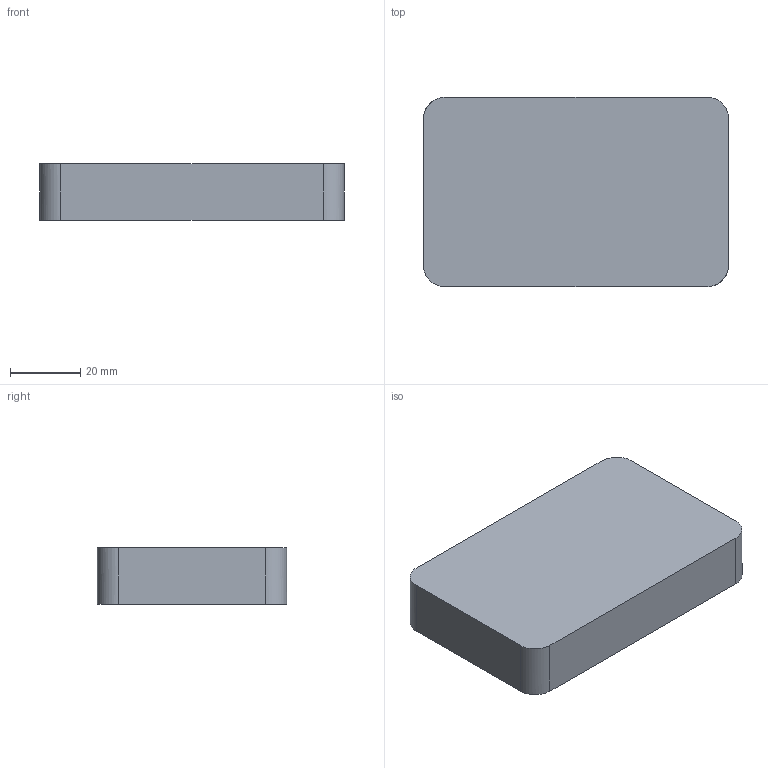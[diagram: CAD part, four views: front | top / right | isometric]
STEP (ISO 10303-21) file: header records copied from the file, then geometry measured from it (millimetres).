
FILE_DESCRIPTION(/* description */ (''),/* implementation_level */ '2;1');
FILE_NAME(/* name */ '9.electronics#9.1#la-bbb',/* time_stamp */ '2014-12-01T20:18:44+01:00',/* author */ (''),/* organization */ (''),/* preprocessor_version */ 'ST-DEVELOPER v14',/* originating_system */ '',/* authorisation */ '');
FILE_SCHEMA (('AUTOMOTIVE_DESIGN'));
Length unit declared in the file: millimetre
Products named in the file (1): Document
Bounding box: 87 x 54 x 16 mm (x, y, z)
Volume: 74673.6 mm3; surface area: 13681.4 mm2
Topology: 1 solids, 1 shells, 10 faces, 24 edges, 16 vertices
Faces by surface type: bspline 8, plane 2
Entity records: 554 total; most frequent: CARTESIAN_POINT 244, ORIENTED_EDGE 48, PCURVE 48, DEFINITIONAL_REPRESENTATION 48, B_SPLINE_CURVE_WITH_KNOTS 32, SURFACE_CURVE 24, EDGE_CURVE 24, VERTEX_POINT 16
